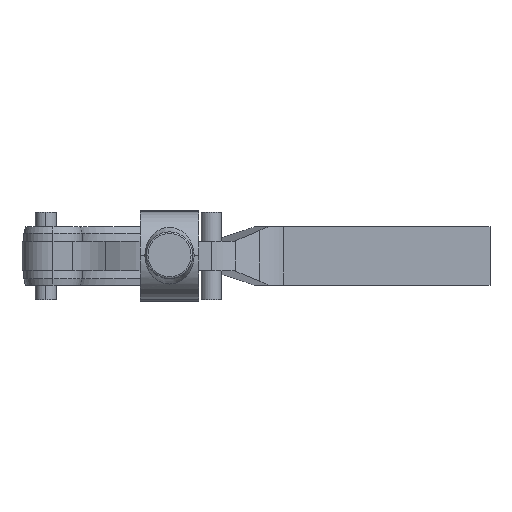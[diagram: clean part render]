
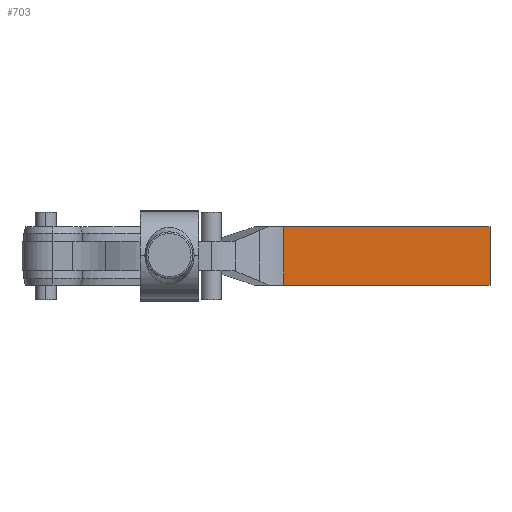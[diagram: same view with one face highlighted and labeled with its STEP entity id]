
A CAD part, top view. The second image highlights one B-rep face of the part: STEP entity #703.
In plain terms, the highlighted planar face has unit normal (0, 0, 1).
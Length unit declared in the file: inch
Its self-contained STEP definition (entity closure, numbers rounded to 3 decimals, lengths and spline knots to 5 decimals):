
#703 = ADVANCED_FACE( '', ( #1002 ), #1003, .T. );
#1002 = FACE_OUTER_BOUND( '', #1394, .T. );
#1003 = PLANE( '', #1395 );
#1394 = EDGE_LOOP( '', ( #2431, #2432, #2433, #2434 ) );
#1395 = AXIS2_PLACEMENT_3D( '', #2435, #2436, #2437 );
#2431 = ORIENTED_EDGE( '', *, *, #3367, .F. );
#2432 = ORIENTED_EDGE( '', *, *, #3368, .F. );
#2433 = ORIENTED_EDGE( '', *, *, #3369, .T. );
#2434 = ORIENTED_EDGE( '', *, *, #3370, .T. );
#2435 = CARTESIAN_POINT( '', ( 8., 0.5, 3.375 ) );
#2436 = DIRECTION( '', ( 0., 0., 1. ) );
#2437 = DIRECTION( '', ( 1., 0., 0. ) );
#3367 = EDGE_CURVE( '', #4046, #4047, #4048, .T. );
#3368 = EDGE_CURVE( '', #4049, #4046, #4050, .T. );
#3369 = EDGE_CURVE( '', #4049, #4051, #4052, .T. );
#3370 = EDGE_CURVE( '', #4051, #4047, #4053, .T. );
#4046 = VERTEX_POINT( '', #5086 );
#4047 = VERTEX_POINT( '', #5087 );
#4048 = LINE( '', #5088, #5089 );
#4049 = VERTEX_POINT( '', #5090 );
#4050 = LINE( '', #5091, #5092 );
#4051 = VERTEX_POINT( '', #5093 );
#4052 = LINE( '', #5094, #5095 );
#4053 = LINE( '', #5096, #5097 );
#5086 = CARTESIAN_POINT( '', ( 8., -0.5, 3.375 ) );
#5087 = CARTESIAN_POINT( '', ( 4.46357, -0.5, 3.375 ) );
#5088 = CARTESIAN_POINT( '', ( 8., -0.5, 3.375 ) );
#5089 = VECTOR( '', #6062, 1. );
#5090 = CARTESIAN_POINT( '', ( 8., 0.5, 3.375 ) );
#5091 = CARTESIAN_POINT( '', ( 8., 0.5, 3.375 ) );
#5092 = VECTOR( '', #6063, 1. );
#5093 = CARTESIAN_POINT( '', ( 4.46357, 0.5, 3.375 ) );
#5094 = CARTESIAN_POINT( '', ( 8., 0.5, 3.375 ) );
#5095 = VECTOR( '', #6064, 1. );
#5096 = CARTESIAN_POINT( '', ( 4.46357, 0.5, 3.375 ) );
#5097 = VECTOR( '', #6065, 1. );
#6062 = DIRECTION( '', ( -1., 0., 0. ) );
#6063 = DIRECTION( '', ( 0., -1., 0. ) );
#6064 = DIRECTION( '', ( -1., 0., 0. ) );
#6065 = DIRECTION( '', ( 0., -1., 0. ) );
